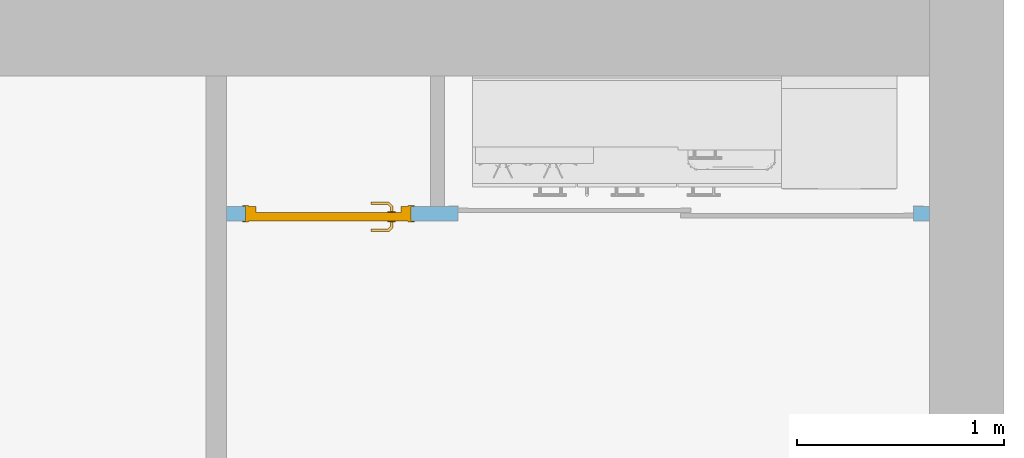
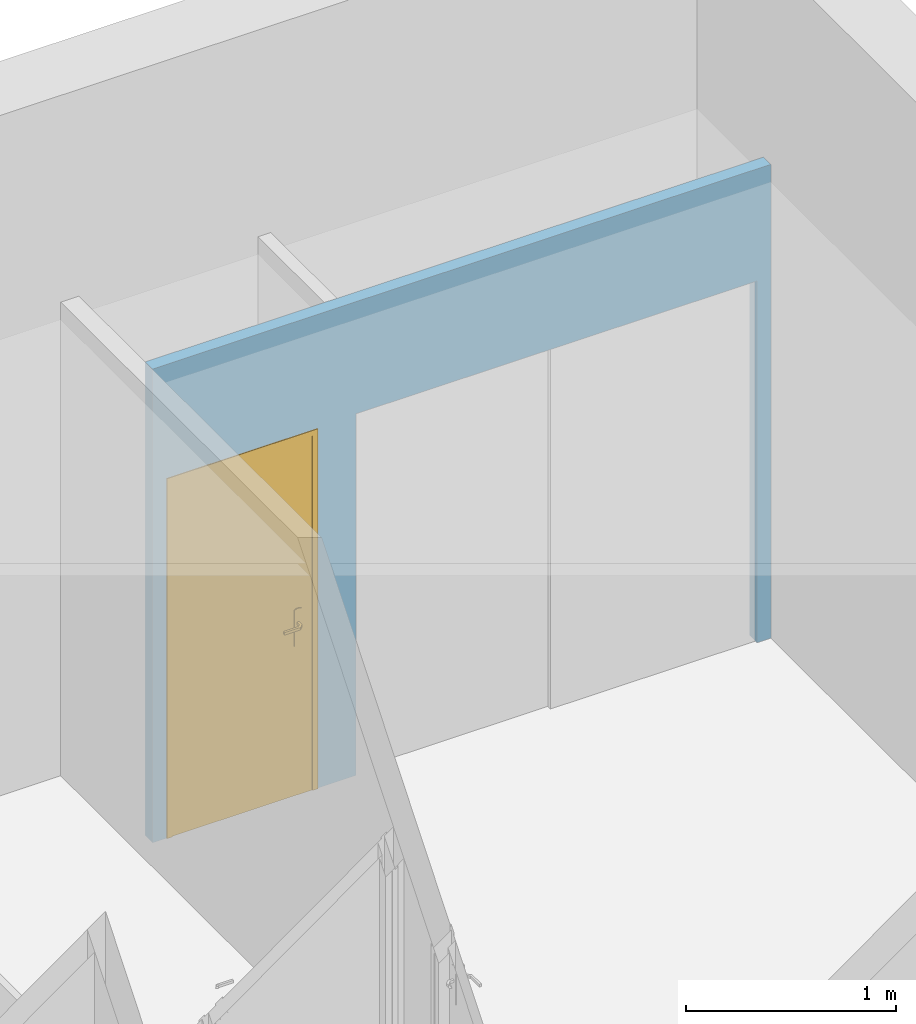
# One storey, part 25 of 32: 1 door, 2 openings, plus 1 element that does not belong to this part.
"""IFC2X3 building model written with IfcOpenShell, lengths in metres."""

from ifc_helpers import new_model, entity, si_unit, converted_unit, derived_unit, direction, frame, frame_2d, origin, origin_2d_with_axis, place, context, subcontext, project, spatial, polyline, circle_curve, parameter, trimmed, segment, composite_curve, rectangle, outline, extrude, faceted_brep, source, transform, mapped, material, material_list, layer, layer_set, layer_usage, type_object, type_shapes, element, fill, save


model = new_model("IFC2X3")

# Units and contexts
model_context = context("Model", 3, precision=1e-05, world=origin(), true_north=direction((6.12303176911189e-17, 1.0)))
plan_context = context("Plan", 3, precision=1e-05, world=origin(), true_north=direction((6.12303176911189e-17, 1.0)))
body_context = subcontext(model_context, "Body", "Model", "MODEL_VIEW")
ifc_project = project(units=[si_unit("LENGTHUNIT", "METRE"), si_unit("AREAUNIT", "SQUARE_METRE"), si_unit("VOLUMEUNIT", "CUBIC_METRE"), converted_unit("PLANEANGLEUNIT", "DEGREE", entity("IfcRatioMeasure", 0.0174532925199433), si_unit("PLANEANGLEUNIT", "RADIAN"), dimensions=[0, 0, 0, 0, 0, 0, 0]), si_unit("MASSUNIT", "GRAM", prefix="KILO"), derived_unit("MASSDENSITYUNIT", [(si_unit("MASSUNIT", "GRAM", prefix="KILO"), 1), (si_unit("LENGTHUNIT", "METRE"), -3)]), derived_unit("MOMENTOFINERTIAUNIT", [(si_unit("LENGTHUNIT", "METRE"), 4)]), si_unit("TIMEUNIT", "SECOND"), si_unit("FREQUENCYUNIT", "HERTZ"), si_unit("THERMODYNAMICTEMPERATUREUNIT", "DEGREE_CELSIUS"), derived_unit("THERMALTRANSMITTANCEUNIT", [(si_unit("MASSUNIT", "GRAM", prefix="KILO"), 1), (si_unit("THERMODYNAMICTEMPERATUREUNIT", "KELVIN"), -1), (si_unit("TIMEUNIT", "SECOND"), -3)]), derived_unit("VOLUMETRICFLOWRATEUNIT", [(si_unit("LENGTHUNIT", "METRE"), 3), (si_unit("TIMEUNIT", "SECOND"), -1)]), si_unit("ELECTRICCURRENTUNIT", "AMPERE"), si_unit("ELECTRICVOLTAGEUNIT", "VOLT"), si_unit("POWERUNIT", "WATT"), si_unit("FORCEUNIT", "NEWTON", prefix="KILO"), si_unit("ILLUMINANCEUNIT", "LUX"), si_unit("LUMINOUSFLUXUNIT", "LUMEN"), si_unit("LUMINOUSINTENSITYUNIT", "CANDELA"), derived_unit("USERDEFINED", [(si_unit("MASSUNIT", "GRAM", prefix="KILO"), -1), (si_unit("LENGTHUNIT", "METRE"), -2), (si_unit("TIMEUNIT", "SECOND"), 3), (si_unit("LUMINOUSFLUXUNIT", "LUMEN"), 1)]), derived_unit("LINEARVELOCITYUNIT", [(si_unit("LENGTHUNIT", "METRE"), 1), (si_unit("TIMEUNIT", "SECOND"), -1)]), si_unit("PRESSUREUNIT", "PASCAL"), derived_unit("USERDEFINED", [(si_unit("LENGTHUNIT", "METRE"), -2), (si_unit("MASSUNIT", "GRAM", prefix="KILO"), 1), (si_unit("TIMEUNIT", "SECOND"), -2)]), derived_unit("LINEARFORCEUNIT", [(si_unit("MASSUNIT", "GRAM", prefix="KILO"), 1), (si_unit("LENGTHUNIT", "METRE"), 1), (si_unit("TIMEUNIT", "SECOND"), -2), (si_unit("LENGTHUNIT", "METRE"), -1)]), derived_unit("PLANARFORCEUNIT", [(si_unit("MASSUNIT", "GRAM", prefix="KILO"), 1), (si_unit("LENGTHUNIT", "METRE"), 1), (si_unit("TIMEUNIT", "SECOND"), -2), (si_unit("LENGTHUNIT", "METRE"), -2)])], contexts=[model_context, plan_context])

# Site, building, storey
site_placement = place(None, origin())
site = spatial("IfcSite", under=ifc_project, at=site_placement, Name="Default", CompositionType="ELEMENT")
building_placement = place(site_placement, origin())
building = spatial("IfcBuilding", under=site, at=building_placement, CompositionType="ELEMENT")
storey_placement = place(building_placement, origin())
storey = spatial("IfcBuildingStorey", under=building, at=storey_placement, Name="0 Mairie RDC 0.00", CompositionType="ELEMENT", Elevation=-1.94916083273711e-14)

# Wall, openings, door
ifc_material_1 = material(Name="Plâtre")
ifc_layer_1 = layer(ifc_material_1, 0.01)
ifc_material_2 = material(Name="Maçonnerie - Isolant")
ifc_layer_2 = layer(ifc_material_2, 0.05)
ifc_layer_3 = layer(ifc_material_1, 0.01)
ifc_layer_set = layer_set([ifc_layer_1, ifc_layer_2, ifc_layer_3], Name="Mur de base:A cloison placostil 72 sèche")
ifc_layer_usage = layer_usage(ifc_layer_set, "AXIS2", "NEGATIVE", 0.035)
wall_type = type_object("IfcWallType", Name="Murs : Mur de base : A cloison placostil 72 sèche", PredefinedType="STANDARD", material=ifc_layer_set)
wall_placement = place(storey_placement, frame((1.77761560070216, -2.63776374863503, 0.0), z_axis=(0.0, 0.0, 1.0), x_axis=(-1.0, 0.0, 0.0)))
wall = element("IfcWallStandardCase", 1, at=wall_placement, inside=storey, type_object=wall_type, material=ifc_layer_usage, Name="Murs : Mur de base : A cloison placostil 72 sèche", ObjectType="Mur de base:A cloison placostil 72 sèche", context=body_context, shape_type="SweptSolid", body=[
    extrude(rectangle(XDim=3.39537085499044, YDim=0.0700000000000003, at=frame_2d((1.69768542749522, -2.42861286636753e-17), x_axis=(-1.0, 0.0))), origin(), (0.0, 0.0, 1.0), 2.75),
])
opening_1_placement = place(wall_placement, frame((2.50350202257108, -0.0349999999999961, 0.0)))
opening_1 = element("IfcOpeningElement", 2, at=opening_1_placement, cuts=wall, Name="Portes : Int. Simple : PP (0.73m x 2.04m):1", ObjectType="Opening", context=body_context, shape_type="SweptSolid", body=[
    extrude(rectangle(XDim=2.075, YDim=0.799999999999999, at=frame_2d((1.0375, 0.4), x_axis=(1.0, 0.0))), frame((0.0, 0.0, 0.0), z_axis=(0.0, 1.0, 0.0), x_axis=(0.0, 0.0, 1.0)), (0.0, 0.0, 1.0), 0.07),
])
opening_2_placement = place(wall_placement, frame((2.27663319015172, 0.0350000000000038, 0.0)))
element("IfcOpeningElement", 3, at=opening_2_placement, cuts=wall, Name="Portes : Placard coulissante - 2 panneaux : Placard coulissante - 2 panneaux 2.20:1", ObjectType="Opening", context=body_context, shape_type="SweptSolid", body=[
    extrude(rectangle(XDim=2.09999999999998, YDim=2.2, at=frame_2d((1.04999999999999, 1.1), x_axis=(1.0, 0.0))), frame((0.0, 0.0, 0.0), z_axis=(0.0, -1.0, 0.0), x_axis=(0.0, 0.0, 1.0)), (0.0, 0.0, 1.0), 0.07),
])
ifc_material_3 = material(Name="Finition Peinture - Blanc satiné")
ifc_material_4 = material(Name="Bois - Cadre de porte")
ifc_material_list_1 = material_list([ifc_material_3, ifc_material_4])
ifc_material_5 = material(Name="Bois - Panneau de porte")
ifc_material_list_2 = material_list([ifc_material_4, ifc_material_5, ifc_material_3])
door_style = type_object("IfcDoorStyle", Name="Portes : Int. Simple : PP (0.73m x 2.04m)", ConstructionType="NOTDEFINED", OperationType="NOTDEFINED", ParameterTakesPrecedence=False, Sizeable=False, material=ifc_material_list_2)
shared_shape = source(origin(), body_context, "Body", "SolidModel", [
    extrude(outline(composite_curve([segment(polyline([(-0.104999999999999, -0.0199999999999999), (0.104999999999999, -0.0199999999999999)]), True, "CONTINUOUS"), segment(trimmed(circle_curve(frame_2d((0.0703589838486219, 0.0), x_axis=(0.0, 1.0)), 0.0399999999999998), [parameter(240.000000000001)], [parameter(300.0)], True, "PARAMETER"), True, "CONTINUOUS"), segment(polyline([(0.104999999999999, 0.0199999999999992), (-0.105, 0.020000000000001)]), True, "CONTINUOUS"), segment(trimmed(circle_curve(frame_2d((-0.0703589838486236, 0.0), x_axis=(0.0, 1.0)), 0.0399999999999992), [parameter(59.9999999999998)], [parameter(120.0)], True, "PARAMETER"), True, "CONTINUOUS")], self_intersect=False)), frame((0.775000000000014, 0.0, 0.975000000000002), z_axis=(0.0, -1.0, 0.0), x_axis=(0.0, 0.0, 1.0)), (0.0, 0.0, 1.0), 0.00499999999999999),
    extrude(outline(composite_curve([segment(polyline([(-0.105, -0.0200000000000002), (0.105, -0.0200000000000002)]), True, "CONTINUOUS"), segment(trimmed(circle_curve(frame_2d((0.0703589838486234, 0.0), x_axis=(0.0, -1.0)), 0.0399999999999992), [parameter(59.9999999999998)], [parameter(120.0)], True, "PARAMETER"), True, "CONTINUOUS"), segment(polyline([(0.104999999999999, 0.0200000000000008), (-0.105, 0.0199999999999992)]), True, "CONTINUOUS"), segment(trimmed(circle_curve(frame_2d((-0.0703589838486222, 0.0), x_axis=(0.0, -1.0)), 0.0399999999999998), [parameter(240.0)], [parameter(300.0)], True, "PARAMETER"), True, "CONTINUOUS")], self_intersect=False)), frame((0.775000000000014, 0.044999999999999, 0.975000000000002), z_axis=(0.0, -1.0, 0.0), x_axis=(0.0, 0.0, -1.0)), (0.0, 0.0, 1.0), 0.00500000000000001),
    extrude(rectangle(XDim=0.73, YDim=0.04, at=origin_2d_with_axis()), frame((0.470000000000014, 0.0200000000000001, 0.0), z_axis=(0.0, 0.0, 1.0), x_axis=(-1.0, 0.0, 0.0)), (0.0, 0.0, 1.0), 2.04),
    extrude(outline(polyline([(0.384999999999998, -1.03750000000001), (0.414999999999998, -1.03750000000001), (0.414999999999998, 1.0525), (-0.414999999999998, 1.05250000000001), (-0.414999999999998, -1.0375), (-0.384999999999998, -1.03750000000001), (-0.384999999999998, 1.02250000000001), (0.384999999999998, 1.02250000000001), (0.384999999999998, -1.03750000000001)])), frame((0.470000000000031, 0.0749999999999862, 1.03750000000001), z_axis=(0.0, -1.0, 0.0), x_axis=(1.0, 0.0, 0.0)), (0.0, 0.0, 1.0), 0.00500000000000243),
    extrude(outline(polyline([(0.384999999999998, -1.03750000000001), (0.414999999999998, -1.03750000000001), (0.414999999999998, 1.0525), (-0.414999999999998, 1.05250000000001), (-0.414999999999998, -1.0375), (-0.384999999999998, -1.03750000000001), (-0.384999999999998, 1.02250000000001), (0.384999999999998, 1.02250000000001), (0.384999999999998, -1.03750000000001)])), frame((0.470000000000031, 0.0, 1.03750000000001), z_axis=(0.0, -1.0, 0.0), x_axis=(1.0, 0.0, 0.0)), (0.0, 0.0, 1.0), 0.00499999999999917),
    faceted_brep([(0.772974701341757, -0.00500000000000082, 1.00778044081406), (0.777025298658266, -0.00500000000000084, 1.00778044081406), (0.781000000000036, -0.00500000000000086, 1.00699999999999), (0.781000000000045, -0.00500000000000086, 0.992999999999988), (0.777025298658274, -0.00500000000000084, 0.99221955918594), (0.772974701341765, -0.00500000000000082, 0.992219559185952), (0.768999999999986, -0.00500000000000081, 0.993000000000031), (0.768999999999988, -0.00500000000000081, 1.007), (0.777025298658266, -0.0310045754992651, 1.00778044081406), (0.781000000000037, -0.0326509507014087, 1.007), (0.772974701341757, -0.0293267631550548, 1.00778044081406), (0.759298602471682, -0.0430028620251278, 1.00778044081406), (0.760976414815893, -0.047053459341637, 1.00778044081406), (0.768999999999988, -0.0276803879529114, 1.007), (0.768999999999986, -0.0276803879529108, 0.993000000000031), (0.772974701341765, -0.0293267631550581, 0.992219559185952), (0.777025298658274, -0.0310045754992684, 0.99221955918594), (0.760976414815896, -0.0470534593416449, 0.99221955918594), (0.759298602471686, -0.0430028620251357, 0.992219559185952), (0.781000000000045, -0.0326509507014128, 0.992999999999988), (0.762622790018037, -0.051028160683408, 1.007), (0.757652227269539, -0.0390281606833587, 1.007), (0.757652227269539, -0.0390281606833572, 0.993000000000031), (0.76262279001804, -0.0510281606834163, 0.992999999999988), (0.674981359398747, -0.0510281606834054, 1.007), (0.674981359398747, -0.0470534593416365, 1.00778044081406), (0.674981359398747, -0.0430028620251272, 1.00778044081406), (0.674981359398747, -0.0390281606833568, 1.00699999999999), (0.674981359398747, -0.0390281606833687, 0.993000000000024), (0.674981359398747, -0.0430028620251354, 0.992219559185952), (0.674981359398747, -0.0470534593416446, 0.99221955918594), (0.674981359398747, -0.0510281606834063, 0.992999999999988), (0.71713998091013, -0.0450281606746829, 1.0078786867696), (0.722692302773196, -0.0510281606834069, 1.007), (0.716316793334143, -0.0390281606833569, 1.007), (0.716316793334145, -0.0390281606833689, 0.993000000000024), (0.717139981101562, -0.0450281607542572, 0.992121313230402), (0.722692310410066, -0.0510281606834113, 0.992999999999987)], [[[0, 1, 2, 3, 4, 5, 6, 7]], [[2, 1, 8, 9]], [[1, 0, 10, 11, 12, 8]], [[0, 7, 13, 10]], [[14, 13, 7, 6]], [[5, 15, 14, 6]], [[5, 4, 16, 17, 18, 15]], [[3, 19, 16, 4]], [[9, 19, 3, 2]], [[9, 8, 12, 20]], [[10, 13, 21, 11]], [[22, 21, 13, 14]], [[14, 15, 18, 22]], [[16, 19, 23, 17]], [[20, 23, 19, 9]], [[24, 25, 26, 27, 28, 29, 30, 31]], [[32, 25, 33]], [[33, 25, 24]], [[33, 20, 12]], [[11, 34, 32]], [[34, 11, 21]], [[27, 26, 34]], [[32, 26, 25]], [[32, 34, 26]], [[32, 33, 12]], [[11, 32, 12]], [[21, 22, 35, 28, 27, 34]], [[36, 29, 35]], [[30, 36, 37]], [[18, 35, 22]], [[29, 28, 35]], [[30, 37, 31]], [[37, 17, 23]], [[36, 17, 37]], [[36, 18, 17]], [[36, 35, 18]], [[29, 36, 30]], [[23, 20, 33, 24, 31, 37]]]),
    faceted_brep([(0.772974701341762, 0.0449999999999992, 0.992219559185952), (0.777025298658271, 0.0449999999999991, 0.99221955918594), (0.781000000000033, 0.0449999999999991, 0.992999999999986), (0.781000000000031, 0.0449999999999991, 1.007), (0.777025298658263, 0.0449999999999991, 1.00778044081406), (0.772974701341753, 0.0449999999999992, 1.00778044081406), (0.768999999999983, 0.0449999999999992, 1.007), (0.768999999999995, 0.0449999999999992, 0.993000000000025), (0.768999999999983, 0.0674852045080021, 1.007), (0.768999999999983, 0.0674852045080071, 0.993000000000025), (0.772974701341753, 0.0691315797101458, 1.00778044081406), (0.777025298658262, 0.0708093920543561, 1.00778044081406), (0.760838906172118, 0.0869957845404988, 1.00778044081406), (0.759161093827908, 0.0829451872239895, 1.00778044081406), (0.781000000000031, 0.0724557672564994, 1.007), (0.781000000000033, 0.0724557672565, 0.992999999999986), (0.777025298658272, 0.0708093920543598, 0.99221955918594), (0.772974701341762, 0.0691315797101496, 0.992219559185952), (0.759161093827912, 0.0829451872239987, 0.992219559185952), (0.760838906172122, 0.0869957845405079, 0.99221955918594), (0.757514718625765, 0.0789704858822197, 1.007), (0.757514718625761, 0.0789704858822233, 0.993000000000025), (0.762485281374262, 0.0909704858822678, 1.007), (0.762485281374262, 0.0909704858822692, 0.992999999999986), (0.674954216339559, 0.0829451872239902, 1.00778044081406), (0.674954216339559, 0.0869957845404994, 1.00778044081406), (0.674954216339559, 0.0909704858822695, 1.007), (0.674954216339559, 0.0909704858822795, 0.992999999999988), (0.674954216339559, 0.0869957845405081, 0.99221955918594), (0.674954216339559, 0.0829451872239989, 0.992219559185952), (0.674954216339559, 0.07897048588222, 0.993000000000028), (0.674954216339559, 0.0789704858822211, 1.007), (0.716234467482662, 0.0789704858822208, 1.007), (0.716234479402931, 0.0789704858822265, 0.993000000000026), (0.717057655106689, 0.0849704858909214, 1.0078786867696), (0.722554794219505, 0.0909704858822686, 1.007), (0.722554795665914, 0.0909704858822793, 0.992999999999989), (0.717057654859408, 0.0849704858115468, 0.992121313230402)], [[[0, 1, 2, 3, 4, 5, 6, 7]], [[8, 9, 7, 6]], [[5, 10, 8, 6]], [[5, 4, 11, 12, 13, 10]], [[3, 14, 11, 4]], [[14, 3, 2, 15]], [[2, 1, 16, 15]], [[1, 0, 17, 18, 19, 16]], [[0, 7, 9, 17]], [[20, 21, 9, 8]], [[8, 10, 13, 20]], [[14, 22, 12, 11]], [[23, 22, 14, 15]], [[15, 16, 19, 23]], [[17, 9, 21, 18]], [[24, 25, 26, 27, 28, 29, 30, 31]], [[21, 20, 32, 31, 30, 33]], [[34, 24, 32]], [[25, 34, 35]], [[13, 32, 20]], [[24, 31, 32]], [[25, 35, 26]], [[35, 12, 22]], [[34, 12, 35]], [[34, 13, 12]], [[34, 32, 13]], [[24, 34, 25]], [[22, 23, 36, 27, 26, 35]], [[37, 28, 36]], [[36, 28, 27]], [[36, 23, 19]], [[18, 33, 37]], [[33, 18, 21]], [[30, 29, 33]], [[37, 29, 28]], [[37, 33, 29]], [[37, 36, 19]], [[18, 37, 19]]]),
    faceted_brep([(0.870000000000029, 0.0, 0.0), (0.835000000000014, 0.0, 0.0), (0.835000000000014, 0.04, 0.0), (0.820000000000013, 0.04, 0.0), (0.820000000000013, 0.0699999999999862, 0.0), (0.870000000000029, 0.0699999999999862, 0.0), (0.870000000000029, 0.0699999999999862, 2.07500000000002), (0.870000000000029, 0.0, 2.07500000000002), (0.820000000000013, 0.0699999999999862, 2.025), (0.120000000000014, 0.0699999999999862, 2.025), (0.120000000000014, 0.0699999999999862, 0.0), (0.0699999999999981, 0.0699999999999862, 0.0), (0.0699999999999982, 0.0699999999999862, 2.07500000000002), (0.820000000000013, 0.04, 2.025), (0.835000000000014, 0.04, 2.04), (0.105000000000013, 0.04, 2.04), (0.105000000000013, 0.04, 0.0), (0.120000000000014, 0.04, 0.0), (0.120000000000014, 0.04, 2.025), (0.835000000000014, 0.0, 2.04), (0.0699999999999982, 0.0, 2.07500000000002), (0.0699999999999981, 0.0, 0.0), (0.105000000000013, 0.0, 0.0), (0.105000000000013, 0.0, 2.04)], [[[0, 1, 2, 3, 4, 5]], [[5, 6, 7, 0]], [[4, 8, 9, 10, 11, 12, 6, 5]], [[3, 13, 8, 4]], [[2, 14, 15, 16, 17, 18, 13, 3]], [[1, 19, 14, 2]], [[0, 7, 20, 21, 22, 23, 19, 1]], [[12, 11, 21, 20]], [[21, 11, 10, 17, 16, 22]], [[18, 17, 10, 9]], [[23, 22, 16, 15]], [[6, 12, 20, 7]], [[13, 18, 9, 8]], [[19, 23, 15, 14]]]),
])
type_shapes(door_style, [shared_shape])
door_placement = place(opening_1_placement, frame((0.870000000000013, 0.0700000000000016, 0.0), z_axis=(0.0, 0.0, 1.0), x_axis=(-1.0, 0.0, 0.0)))
door = element("IfcDoor", 4, at=door_placement, inside=storey, type_object=door_style, material=ifc_material_list_1, Name="Portes : Int. Simple : PP (0.73m x 2.04m)", ObjectType="Int. Simple:PP (0.73m x 2.04m)", OverallHeight=2.075, OverallWidth=0.799999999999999, context=body_context, shape_type="MappedRepresentation", body=[
    mapped(shared_shape, transform((0.0, 0.0, 0.0), scale=1.0)),
])
fill(opening_1, door)

save(model, "model.ifc")
